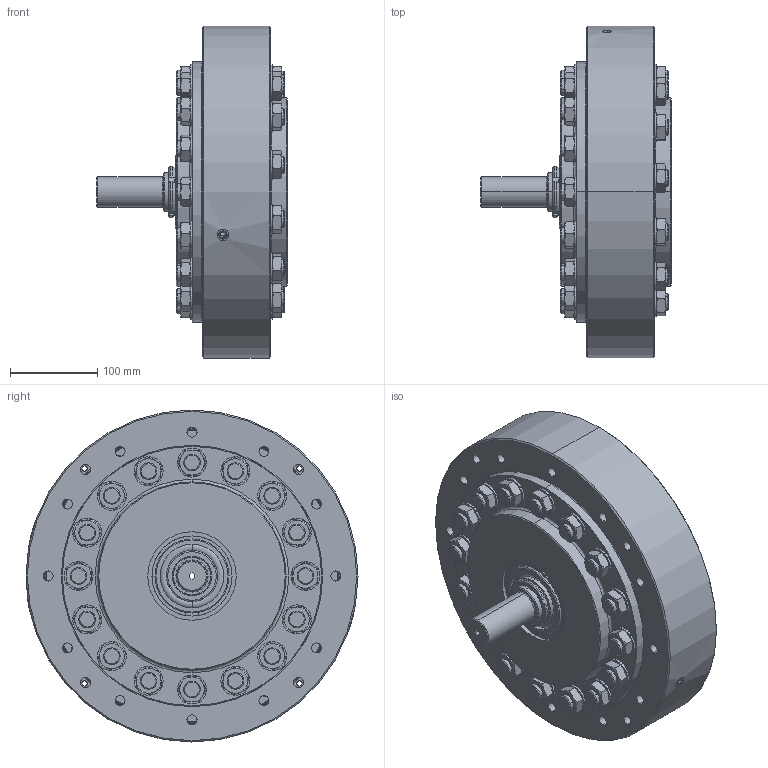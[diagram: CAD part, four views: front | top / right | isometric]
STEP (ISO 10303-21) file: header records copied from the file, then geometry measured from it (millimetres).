
FILE_DESCRIPTION (( 'STEP AP214' ), '1' );
FILE_NAME ('DM10RRRFTLS0000.STEP', '2019-10-30T16:59:15', ( '' ), ( '' ), 'SwSTEP 2.0', 'SolidWorks 2019', '' );
FILE_SCHEMA (( 'AUTOMOTIVE_DESIGN' ));
Length unit declared in the file: millimetre
Products named in the file (1): DM10RRRFTLS0000
Bounding box: 218.17 x 380.87 x 380.87 mm (x, y, z)
Surface area: 528912.9 mm2 (no closed solid volume)
Topology: 0 solids, 104 shells, 900 faces, 2262 edges, 1471 vertices
Faces by surface type: plane 321, cone 305, cylinder 252, torus 22
Entity records: 40434 total; most frequent: CARTESIAN_POINT 9535, DIRECTION 4533, ORIENTED_EDGE 3850, EDGE_CURVE 2262, AXIS2_PLACEMENT_3D 1947, VERTEX_POINT 1471, EDGE_LOOP 1055, CIRCLE 1046
